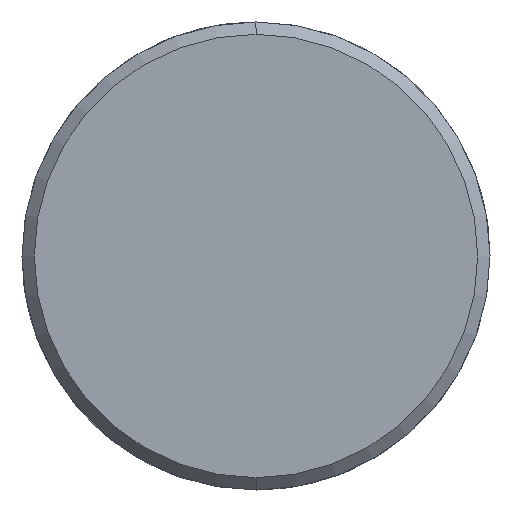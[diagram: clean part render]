
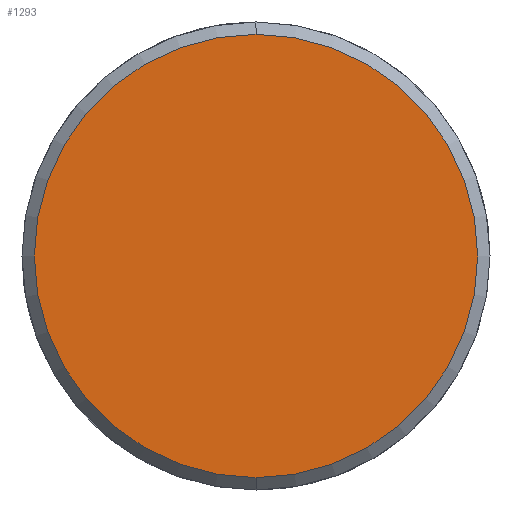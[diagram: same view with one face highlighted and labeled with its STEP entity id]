
A CAD part, left-side view. The second image highlights one B-rep face of the part: STEP entity #1293.
In plain terms, the highlighted planar face has unit normal (-1, 0, 0).
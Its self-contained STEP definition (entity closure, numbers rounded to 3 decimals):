
#1225=CARTESIAN_POINT('Vertex',(-7.,0.,-18.)) ;
#1228=CARTESIAN_POINT('Axis2P3D Location',(-7.,0.,0.)) ;
#1232=CARTESIAN_POINT('Vertex',(-7.,18.,0.)) ;
#1235=CARTESIAN_POINT('Axis2P3D Location',(-7.,0.,0.)) ;
#1239=CARTESIAN_POINT('Vertex',(-7.,0.,18.)) ;
#1261=CARTESIAN_POINT('Axis2P3D Location',(-7.,0.,0.)) ;
#1265=CARTESIAN_POINT('Vertex',(-7.,-18.,0.)) ;
#1268=CARTESIAN_POINT('Axis2P3D Location',(-7.,0.,0.)) ;
#1282=CARTESIAN_POINT('Axis2P3D Location',(-7.,0.,0.)) ;
#1229=DIRECTION('Axis2P3D Direction',(1.,0.,-0.)) ;
#1236=DIRECTION('Axis2P3D Direction',(1.,0.,-0.)) ;
#1262=DIRECTION('Axis2P3D Direction',(1.,0.,-0.)) ;
#1269=DIRECTION('Axis2P3D Direction',(1.,0.,-0.)) ;
#1283=DIRECTION('Axis2P3D Direction',(1.,0.,-0.)) ;
#1284=DIRECTION('Axis2P3D XDirection',(-0.,0.,-1.)) ;
#1230=AXIS2_PLACEMENT_3D('Circle Axis2P3D',#1228,#1229,$) ;
#1237=AXIS2_PLACEMENT_3D('Circle Axis2P3D',#1235,#1236,$) ;
#1263=AXIS2_PLACEMENT_3D('Circle Axis2P3D',#1261,#1262,$) ;
#1270=AXIS2_PLACEMENT_3D('Circle Axis2P3D',#1268,#1269,$) ;
#1285=AXIS2_PLACEMENT_3D('Plane Axis2P3D',#1282,#1283,#1284) ;
#1288=ORIENTED_EDGE('',*,*,#1234,.F.) ;
#1289=ORIENTED_EDGE('',*,*,#1272,.F.) ;
#1290=ORIENTED_EDGE('',*,*,#1267,.F.) ;
#1291=ORIENTED_EDGE('',*,*,#1241,.F.) ;
#1293=ADVANCED_FACE('351-25X96X240',(#1292),#1286,.F.) ;
#1231=CIRCLE('generated circle',#1230,18.) ;
#1238=CIRCLE('generated circle',#1237,18.) ;
#1264=CIRCLE('generated circle',#1263,18.) ;
#1271=CIRCLE('generated circle',#1270,18.) ;
#1234=EDGE_CURVE('',#1226,#1233,#1231,.T.) ;
#1241=EDGE_CURVE('',#1233,#1240,#1238,.T.) ;
#1267=EDGE_CURVE('',#1240,#1266,#1264,.T.) ;
#1272=EDGE_CURVE('',#1266,#1226,#1271,.T.) ;
#1287=EDGE_LOOP('',(#1288,#1289,#1290,#1291)) ;
#1292=FACE_OUTER_BOUND('',#1287,.T.) ;
#1286=PLANE('Plane',#1285) ;
#1226=VERTEX_POINT('',#1225) ;
#1233=VERTEX_POINT('',#1232) ;
#1240=VERTEX_POINT('',#1239) ;
#1266=VERTEX_POINT('',#1265) ;
